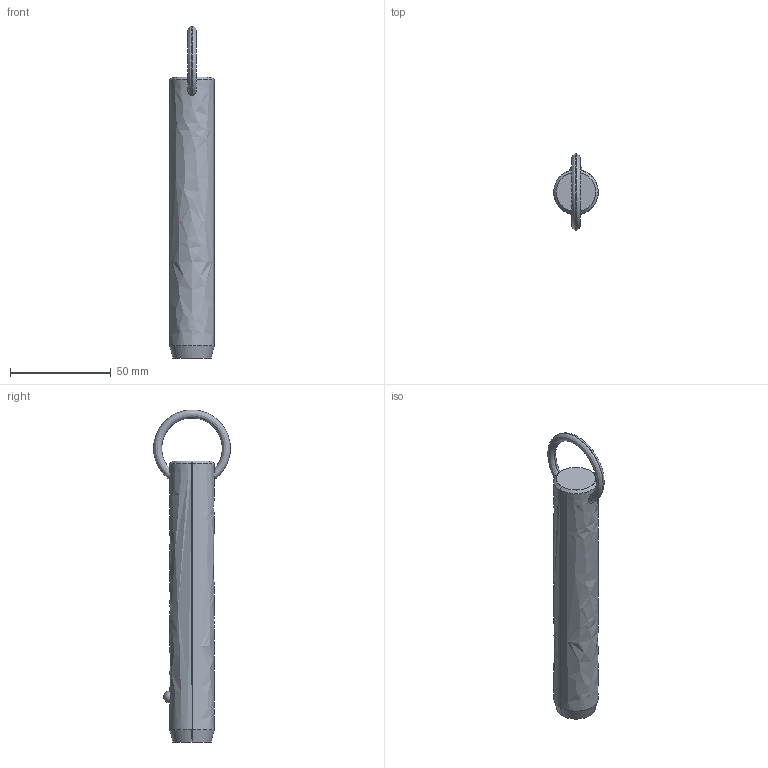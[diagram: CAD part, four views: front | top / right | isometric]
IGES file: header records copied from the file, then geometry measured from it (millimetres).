
Start section: SolidWorks IGES file using analytic representation for surfaces
Global section: file name: C:\Users\liam_\OneDrive\Documents\WORK\Work for WixRoyd\Job Files\J-00019 - Matt Davis CAD Checking\04. CAD Drawings\automotion20190605\P1250.2_v2\P1250.2_v2_20190729_IGES\P1250.087-400.igs; native system: SolidWorks 2017; preprocessor: SolidWorks 2017; author: liam_; date: 190730.001112; units: millimetre
Bounding box: 22.2 x 38.09 x 165.09 mm (x, y, z)
Surface area: 11386.9 mm2 (no closed solid volume)
Topology: 0 solids, 0 shells, 12 faces, 302 edges, 300 vertices
Faces by surface type: revolution 8, bspline 4
